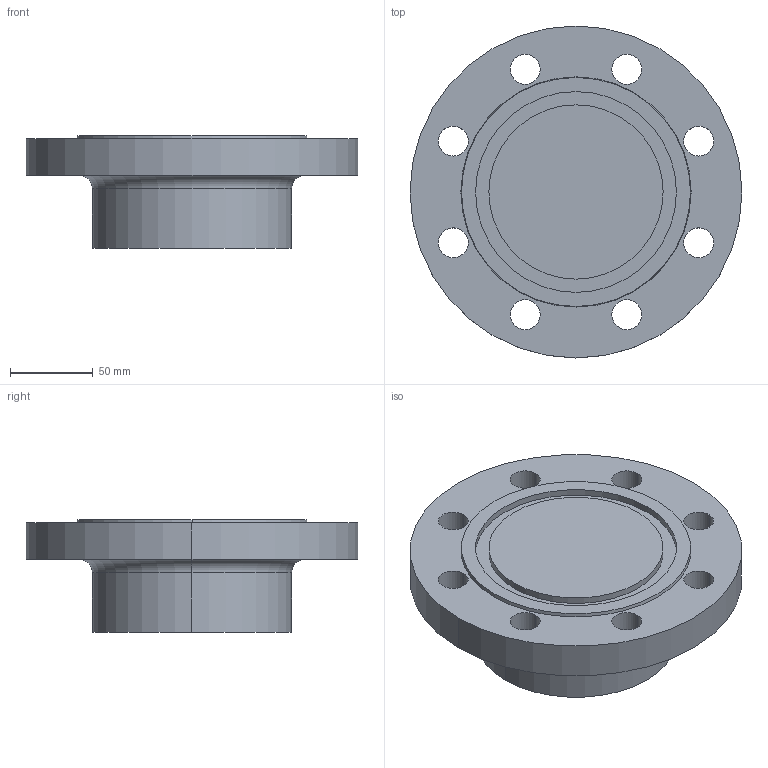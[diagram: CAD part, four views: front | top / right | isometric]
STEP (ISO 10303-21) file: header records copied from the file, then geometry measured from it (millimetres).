
FILE_DESCRIPTION (( 'STEP AP214' ), '1' );
FILE_NAME ('PN40 DN80 Type 21(i) - Type D Face.STEP', '2019-01-01T19:35:32', ( '' ), ( '' ), 'SwSTEP 2.0', 'SolidWorks 2019', '' );
FILE_SCHEMA (( 'AUTOMOTIVE_DESIGN' ));
Length unit declared in the file: millimetre
Products named in the file (1): PN40 DN80 Type 21(i) - Type D Face
Bounding box: 200 x 200 x 68 mm (x, y, z)
Volume: 1168031.5 mm3; surface area: 101427 mm2
Topology: 1 solids, 1 shells, 34 faces, 82 edges, 54 vertices
Faces by surface type: cylinder 24, plane 6, torus 2, cone 2
Entity records: 1092 total; most frequent: DIRECTION 208, CARTESIAN_POINT 171, ORIENTED_EDGE 164, AXIS2_PLACEMENT_3D 91, EDGE_CURVE 82, CIRCLE 56, EDGE_LOOP 54, VERTEX_POINT 54
